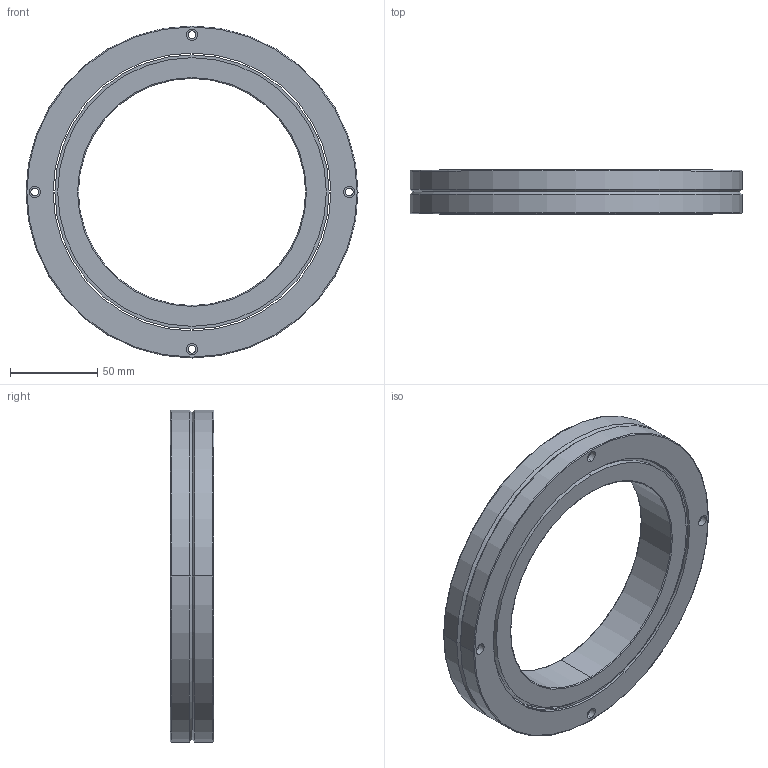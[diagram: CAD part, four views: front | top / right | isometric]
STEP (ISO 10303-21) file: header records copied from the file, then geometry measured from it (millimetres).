
FILE_DESCRIPTION((''),'2;1');
FILE_NAME('RB13025','2015-07-18T',('Administrator'),(''),'PRO/ENGINEER BY PARAMETRIC TECHNOLOGY CORPORATION, 2010180','PRO/ENGINEER BY PARAMETRIC TECHNOLOGY CORPORATION, 2010180','');
FILE_SCHEMA(('AUTOMOTIVE_DESIGN_CC2 { 1 2 10303 214 -1 1 5 2 }'));
Length unit declared in the file: millimetre
Products named in the file (1): RB13025
Bounding box: 190 x 25 x 190 mm (x, y, z)
Volume: 307991.5 mm3; surface area: 92346.9 mm2
Topology: 2 solids, 2 shells, 88 faces, 184 edges, 114 vertices
Faces by surface type: cylinder 50, plane 18, cone 12, torus 8
Entity records: 2497 total; most frequent: DIRECTION 482, CARTESIAN_POINT 386, ORIENTED_EDGE 368, AXIS2_PLACEMENT_3D 210, EDGE_CURVE 184, CIRCLE 122, VERTEX_POINT 114, EDGE_LOOP 114
